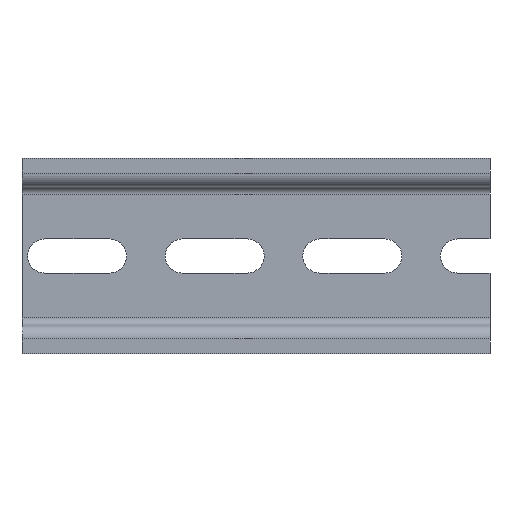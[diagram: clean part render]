
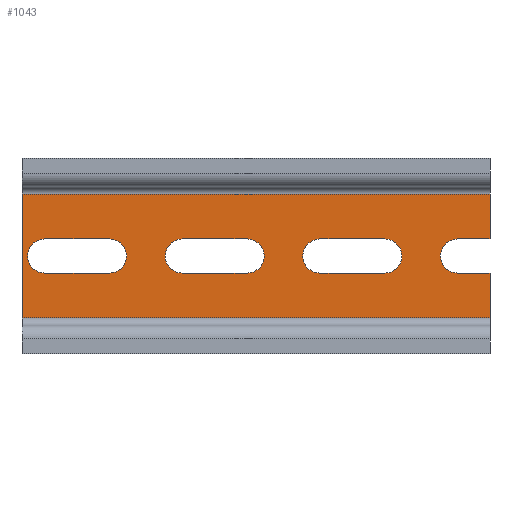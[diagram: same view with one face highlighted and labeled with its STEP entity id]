
A CAD part, top view. The second image highlights one B-rep face of the part: STEP entity #1043.
In plain terms, the highlighted planar face has unit normal (0, 0, 1).
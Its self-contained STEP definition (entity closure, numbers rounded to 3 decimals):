
#172=DIRECTION('',(-1.,0.,0.));
#173=VECTOR('',#172,5.9);
#174=CARTESIAN_POINT('',(42.5,29.4,0.25));
#175=LINE('',#174,#173);
#188=DIRECTION('',(0.,1.,0.));
#189=VECTOR('',#188,8.15);
#190=CARTESIAN_POINT('',(42.5,21.25,0.25));
#191=LINE('',#190,#189);
#192=DIRECTION('',(-1.,0.,0.));
#193=VECTOR('',#192,85.);
#194=CARTESIAN_POINT('',(42.5,21.25,0.25));
#195=LINE('',#194,#193);
#196=DIRECTION('',(0.,1.,0.));
#197=VECTOR('',#196,22.5);
#198=CARTESIAN_POINT('',(-42.5,21.25,0.25));
#199=LINE('',#198,#197);
#200=CARTESIAN_POINT('',(36.6,32.5,0.25));
#201=DIRECTION('',(0.,0.,1.));
#202=DIRECTION('',(0.,1.,0.));
#203=AXIS2_PLACEMENT_3D('',#200,#201,#202);
#205=DIRECTION('',(1.,0.,0.));
#206=VECTOR('',#205,11.8);
#207=CARTESIAN_POINT('',(-38.4,29.4,0.25));
#208=LINE('',#207,#206);
#209=CARTESIAN_POINT('',(-26.6,32.5,0.25));
#210=DIRECTION('',(0.,0.,1.));
#211=DIRECTION('',(0.,-1.,0.));
#212=AXIS2_PLACEMENT_3D('',#209,#210,#211);
#214=DIRECTION('',(-1.,0.,0.));
#215=VECTOR('',#214,11.8);
#216=CARTESIAN_POINT('',(-26.6,35.6,0.25));
#217=LINE('',#216,#215);
#218=CARTESIAN_POINT('',(-38.4,32.5,0.25));
#219=DIRECTION('',(0.,0.,1.));
#220=DIRECTION('',(0.,1.,0.));
#221=AXIS2_PLACEMENT_3D('',#218,#219,#220);
#223=CARTESIAN_POINT('',(-1.6,32.5,0.25));
#224=DIRECTION('',(0.,0.,1.));
#225=DIRECTION('',(0.,-1.,0.));
#226=AXIS2_PLACEMENT_3D('',#223,#224,#225);
#228=CARTESIAN_POINT('',(-13.4,32.5,0.25));
#229=DIRECTION('',(0.,0.,1.));
#230=DIRECTION('',(0.,1.,0.));
#231=AXIS2_PLACEMENT_3D('',#228,#229,#230);
#233=CARTESIAN_POINT('',(23.4,32.5,0.25));
#234=DIRECTION('',(0.,0.,1.));
#235=DIRECTION('',(0.,-1.,0.));
#236=AXIS2_PLACEMENT_3D('',#233,#234,#235);
#238=CARTESIAN_POINT('',(11.6,32.5,0.25));
#239=DIRECTION('',(0.,0.,1.));
#240=DIRECTION('',(0.,1.,0.));
#241=AXIS2_PLACEMENT_3D('',#238,#239,#240);
#243=DIRECTION('',(-1.,0.,0.));
#244=VECTOR('',#243,85.);
#245=CARTESIAN_POINT('',(42.5,43.75,0.25));
#246=LINE('',#245,#244);
#395=DIRECTION('',(0.,1.,0.));
#396=VECTOR('',#395,8.15);
#397=CARTESIAN_POINT('',(42.5,35.6,0.25));
#398=LINE('',#397,#396);
#407=DIRECTION('',(1.,0.,0.));
#408=VECTOR('',#407,5.9);
#409=CARTESIAN_POINT('',(36.6,35.6,0.25));
#410=LINE('',#409,#408);
#451=DIRECTION('',(-1.,0.,0.));
#452=VECTOR('',#451,11.8);
#453=CARTESIAN_POINT('',(-1.6,29.4,0.25));
#454=LINE('',#453,#452);
#463=DIRECTION('',(1.,0.,0.));
#464=VECTOR('',#463,11.8);
#465=CARTESIAN_POINT('',(-13.4,35.6,0.25));
#466=LINE('',#465,#464);
#483=DIRECTION('',(-1.,0.,0.));
#484=VECTOR('',#483,11.8);
#485=CARTESIAN_POINT('',(23.4,29.4,0.25));
#486=LINE('',#485,#484);
#495=DIRECTION('',(1.,0.,0.));
#496=VECTOR('',#495,11.8);
#497=CARTESIAN_POINT('',(11.6,35.6,0.25));
#498=LINE('',#497,#496);
#559=CARTESIAN_POINT('',(42.5,21.25,0.25));
#560=VERTEX_POINT('',#559);
#565=CARTESIAN_POINT('',(-42.5,21.25,0.25));
#566=VERTEX_POINT('',#565);
#569=CARTESIAN_POINT('',(-42.5,43.75,0.25));
#570=VERTEX_POINT('',#569);
#603=CARTESIAN_POINT('',(-26.6,29.4,0.25));
#604=VERTEX_POINT('',#603);
#605=CARTESIAN_POINT('',(-26.6,35.6,0.25));
#606=VERTEX_POINT('',#605);
#607=CARTESIAN_POINT('',(-38.4,35.6,0.25));
#608=VERTEX_POINT('',#607);
#609=CARTESIAN_POINT('',(-38.4,29.4,0.25));
#610=VERTEX_POINT('',#609);
#611=CARTESIAN_POINT('',(-1.6,29.4,0.25));
#612=CARTESIAN_POINT('',(-13.4,29.4,0.25));
#613=VERTEX_POINT('',#611);
#614=VERTEX_POINT('',#612);
#615=CARTESIAN_POINT('',(-1.6,35.6,0.25));
#616=VERTEX_POINT('',#615);
#617=CARTESIAN_POINT('',(-13.4,35.6,0.25));
#618=VERTEX_POINT('',#617);
#619=CARTESIAN_POINT('',(23.4,29.4,0.25));
#620=CARTESIAN_POINT('',(11.6,29.4,0.25));
#621=VERTEX_POINT('',#619);
#622=VERTEX_POINT('',#620);
#623=CARTESIAN_POINT('',(23.4,35.6,0.25));
#624=VERTEX_POINT('',#623);
#625=CARTESIAN_POINT('',(11.6,35.6,0.25));
#626=VERTEX_POINT('',#625);
#627=CARTESIAN_POINT('',(42.5,29.4,0.25));
#628=CARTESIAN_POINT('',(36.6,29.4,0.25));
#629=VERTEX_POINT('',#627);
#630=VERTEX_POINT('',#628);
#631=CARTESIAN_POINT('',(36.6,35.6,0.25));
#632=CARTESIAN_POINT('',(42.5,35.6,0.25));
#633=VERTEX_POINT('',#631);
#634=VERTEX_POINT('',#632);
#635=CARTESIAN_POINT('',(42.5,43.75,0.25));
#636=VERTEX_POINT('',#635);
#994=CARTESIAN_POINT('',(0.,32.5,0.25));
#995=DIRECTION('',(0.,0.,1.));
#996=DIRECTION('',(0.,1.,0.));
#997=AXIS2_PLACEMENT_3D('',#994,#995,#996);
#998=PLANE('',#997);
#999=ORIENTED_EDGE('',*,*,#974,.F.);
#1000=ORIENTED_EDGE('',*,*,#989,.F.);
#1001=ORIENTED_EDGE('',*,*,#880,.T.);
#1002=ORIENTED_EDGE('',*,*,#908,.T.);
#1004=ORIENTED_EDGE('',*,*,#1003,.F.);
#1006=ORIENTED_EDGE('',*,*,#1005,.F.);
#1008=ORIENTED_EDGE('',*,*,#1007,.F.);
#1010=ORIENTED_EDGE('',*,*,#1009,.T.);
#1011=EDGE_LOOP('',(#999,#1000,#1001,#1002,#1004,#1006,#1008,#1010));
#1012=FACE_OUTER_BOUND('',#1011,.F.);
#1014=ORIENTED_EDGE('',*,*,#1013,.T.);
#1016=ORIENTED_EDGE('',*,*,#1015,.T.);
#1018=ORIENTED_EDGE('',*,*,#1017,.T.);
#1020=ORIENTED_EDGE('',*,*,#1019,.T.);
#1021=EDGE_LOOP('',(#1014,#1016,#1018,#1020));
#1022=FACE_BOUND('',#1021,.F.);
#1024=ORIENTED_EDGE('',*,*,#1023,.F.);
#1026=ORIENTED_EDGE('',*,*,#1025,.T.);
#1028=ORIENTED_EDGE('',*,*,#1027,.F.);
#1030=ORIENTED_EDGE('',*,*,#1029,.T.);
#1031=EDGE_LOOP('',(#1024,#1026,#1028,#1030));
#1032=FACE_BOUND('',#1031,.F.);
#1034=ORIENTED_EDGE('',*,*,#1033,.F.);
#1036=ORIENTED_EDGE('',*,*,#1035,.T.);
#1038=ORIENTED_EDGE('',*,*,#1037,.F.);
#1040=ORIENTED_EDGE('',*,*,#1039,.T.);
#1041=EDGE_LOOP('',(#1034,#1036,#1038,#1040));
#1042=FACE_BOUND('',#1041,.F.);
#1043=ADVANCED_FACE('',(#1012,#1022,#1032,#1042),#998,.T.);
#204=CIRCLE('',#203,3.1);
#213=CIRCLE('',#212,3.1);
#222=CIRCLE('',#221,3.1);
#227=CIRCLE('',#226,3.1);
#232=CIRCLE('',#231,3.1);
#237=CIRCLE('',#236,3.1);
#242=CIRCLE('',#241,3.1);
#880=EDGE_CURVE('',#560,#566,#195,.T.);
#908=EDGE_CURVE('',#566,#570,#199,.T.);
#974=EDGE_CURVE('',#629,#630,#175,.T.);
#989=EDGE_CURVE('',#560,#629,#191,.T.);
#1003=EDGE_CURVE('',#636,#570,#246,.T.);
#1005=EDGE_CURVE('',#634,#636,#398,.T.);
#1007=EDGE_CURVE('',#633,#634,#410,.T.);
#1009=EDGE_CURVE('',#633,#630,#204,.T.);
#1013=EDGE_CURVE('',#610,#604,#208,.T.);
#1015=EDGE_CURVE('',#604,#606,#213,.T.);
#1017=EDGE_CURVE('',#606,#608,#217,.T.);
#1019=EDGE_CURVE('',#608,#610,#222,.T.);
#1023=EDGE_CURVE('',#613,#614,#454,.T.);
#1025=EDGE_CURVE('',#613,#616,#227,.T.);
#1027=EDGE_CURVE('',#618,#616,#466,.T.);
#1029=EDGE_CURVE('',#618,#614,#232,.T.);
#1033=EDGE_CURVE('',#621,#622,#486,.T.);
#1035=EDGE_CURVE('',#621,#624,#237,.T.);
#1037=EDGE_CURVE('',#626,#624,#498,.T.);
#1039=EDGE_CURVE('',#626,#622,#242,.T.);
